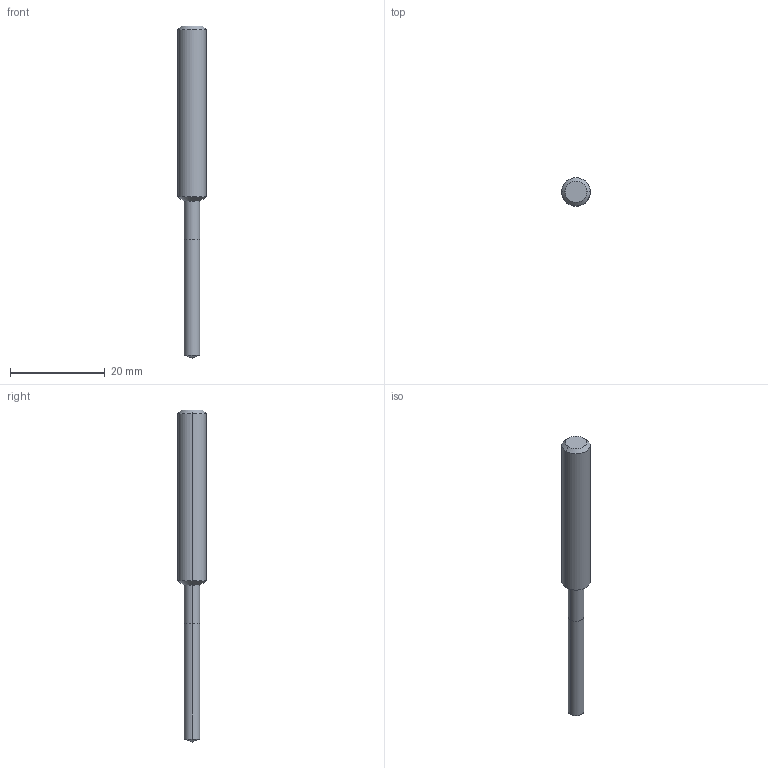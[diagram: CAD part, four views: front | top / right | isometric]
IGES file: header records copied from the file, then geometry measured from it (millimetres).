
Start section: 3D InterOp IGES (v. 2020 1.0.1), Spatial Corp. Copyright (c) 1999-2017.
Global section: file name: WZB12225_3.3.igs; native system: Spatial Corp.; preprocessor: 3D InterOp GENERIC/IGES 3.0; author: Noname; organization: Noname; date: 20201104.104635; units: metre
Bounding box: 6 x 6 x 70 mm (x, y, z)
Surface area: 1067.1 mm2 (no closed solid volume)
Topology: 0 solids, 0 shells, 14 faces, 54 edges, 52 vertices
Faces by surface type: revolution 12, extrusion 2
